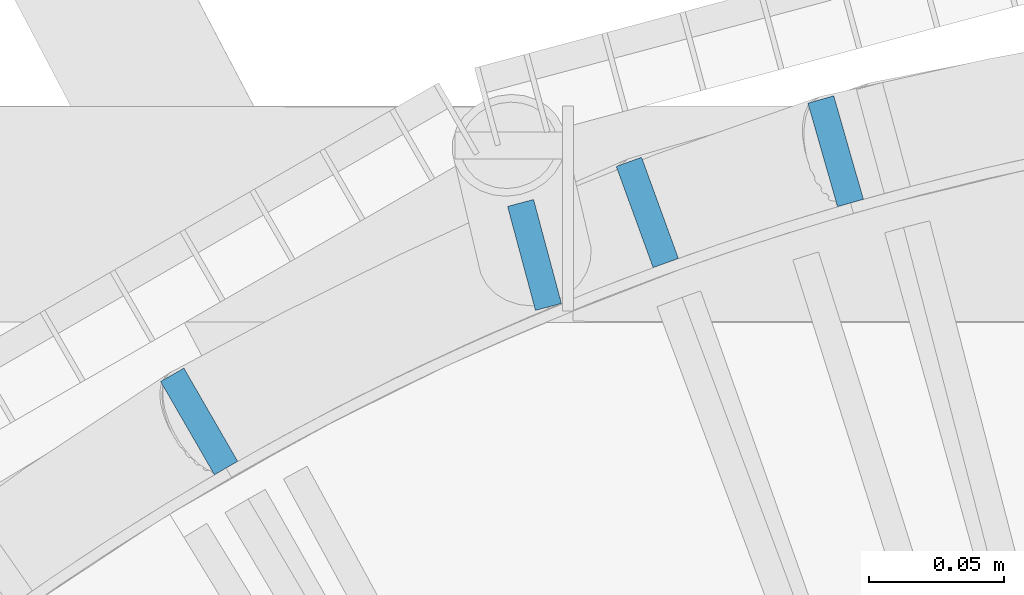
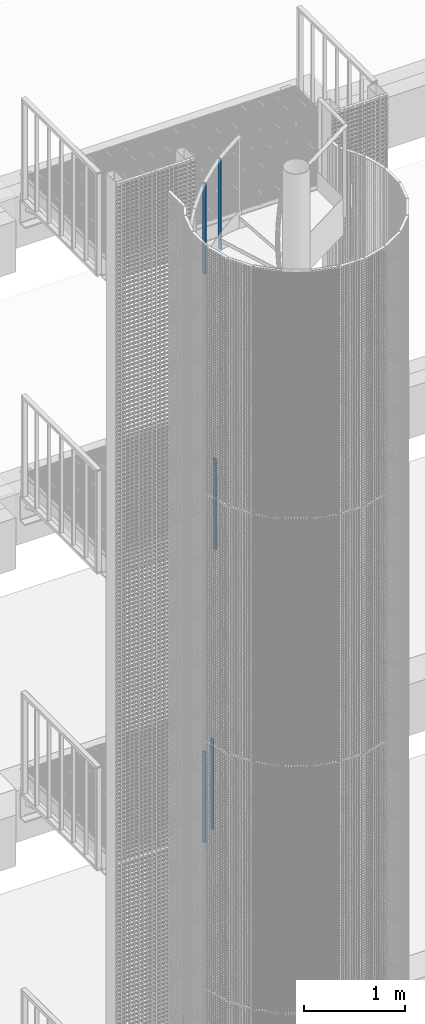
# One storey, part 60 of 1183: 5 columns, 5 elements without a shape of their own.
"""IFC2X3 building model written with IfcOpenShell, lengths in millimetres."""

from ifc_helpers import new_model, si_unit, frame, origin_with_axes, origin_2d_with_axis, place, context, subcontext, project, spatial, rectangle, extrude, material, type_object, element, aggregate, save


model = new_model("IFC2X3")

# Units and contexts
model_context = context("Model", 3, precision=1e-05, world=origin_with_axes())
body_context = subcontext(model_context, "Body", "Model", "MODEL_VIEW")
ifc_project = project(units=[si_unit("LENGTHUNIT", "METRE", prefix="MILLI"), si_unit("AREAUNIT", "SQUARE_METRE"), si_unit("VOLUMEUNIT", "CUBIC_METRE"), si_unit("MASSUNIT", "GRAM", prefix="KILO"), si_unit("TIMEUNIT", "SECOND"), si_unit("PLANEANGLEUNIT", "RADIAN"), si_unit("SOLIDANGLEUNIT", "STERADIAN"), si_unit("THERMODYNAMICTEMPERATUREUNIT", "DEGREE_CELSIUS"), si_unit("LUMINOUSINTENSITYUNIT", "LUMEN")], contexts=[model_context])

# Site, building, storey
site_placement = place(None, origin_with_axes())
site = spatial("IfcSite", under=ifc_project, at=site_placement, Name="Undefined", CompositionType="ELEMENT")
building_placement = place(site_placement, origin_with_axes())
building = spatial("IfcBuilding", under=site, at=building_placement, Name="Undefined", CompositionType="ELEMENT")
storey_placement = place(building_placement, origin_with_axes())
storey = spatial("IfcBuildingStorey", under=building, at=storey_placement, Name="Undefined", CompositionType="ELEMENT", Elevation=0.0)

# Assembly, column
assembly_1_placement = place(storey_placement, origin_with_axes())
assembly_1 = element("IfcElementAssembly", 1, at=assembly_1_placement, inside=storey, Name="MONTANT", AssemblyPlace="NOTDEFINED", PredefinedType="NOTDEFINED")
ifc_material = material(Name="STEEL/S235JR")
column_type = type_object("IfcColumnType", Name="PL10*40", PredefinedType="NOTDEFINED")
column_1_placement = place(assembly_1_placement, frame((21309.47822697, 1013.16982751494, 16976.92), z_axis=(0.0, 0.0, 1.0), x_axis=(0.275637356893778, -0.961261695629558, 0.0)))
column_1 = element("IfcColumn", 2, at=column_1_placement, type_object=column_type, material=ifc_material, Name="MONTANT", context=body_context, shape_type="SweptSolid", body=[
    extrude(rectangle(XDim=10.0, YDim=40.0, at=origin_2d_with_axis()), frame((0.0, 0.0, 1100.0), z_axis=(0.0, 0.0, -1.0), x_axis=(0.0, 1.0, 0.0)), (0.0, 0.0, 1.0), 1100.0),
])
aggregate(assembly_1, [column_1])

assembly_2_placement = place(storey_placement, origin_with_axes())
assembly_2 = element("IfcElementAssembly", 3, at=assembly_2_placement, inside=storey, Name="MONTANT", AssemblyPlace="NOTDEFINED", PredefinedType="NOTDEFINED")
column_2_placement = place(assembly_2_placement, frame((21072.9999999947, 912.790775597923, 16820.4), z_axis=(0.0, 0.0, 1.0), x_axis=(0.499999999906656, -0.866025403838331, 0.0)))
column_2 = element("IfcColumn", 4, at=column_2_placement, type_object=column_type, material=ifc_material, Name="MONTANT", context=body_context, shape_type="SweptSolid", body=[
    extrude(rectangle(XDim=10.0, YDim=40.0, at=origin_2d_with_axis()), frame((0.0, 0.0, 1100.0), z_axis=(0.0, 0.0, -1.0), x_axis=(0.0, 1.0, 0.0)), (0.0, 0.0, 1.0), 1100.0),
])
aggregate(assembly_2, [column_2])

assembly_3_placement = place(storey_placement, origin_with_axes())
assembly_3 = element("IfcElementAssembly", 5, at=assembly_3_placement, inside=storey, Name="MONTANT", AssemblyPlace="NOTDEFINED", PredefinedType="NOTDEFINED")
column_3_placement = place(assembly_3_placement, frame((21239.5107689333, 990.43602231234, 13376.92), z_axis=(0.0, 0.0, 1.0), x_axis=(0.342020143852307, -0.939692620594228, 0.0)))
column_3 = element("IfcColumn", 6, at=column_3_placement, type_object=column_type, material=ifc_material, Name="MONTANT", context=body_context, shape_type="SweptSolid", body=[
    extrude(rectangle(XDim=10.0, YDim=40.0, at=origin_2d_with_axis()), frame((0.0, 0.0, 1100.0), z_axis=(0.0, 0.0, -1.0), x_axis=(0.0, 1.0, 0.0)), (0.0, 0.0, 1.0), 1100.0),
])
aggregate(assembly_3, [column_3])

assembly_4_placement = place(storey_placement, origin_with_axes())
assembly_4 = element("IfcElementAssembly", 7, at=assembly_4_placement, inside=storey, Name="MONTANT", AssemblyPlace="NOTDEFINED", PredefinedType="NOTDEFINED")
column_4_placement = place(assembly_4_placement, frame((21197.5947264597, 974.645820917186, 10009.99), z_axis=(0.0, 0.0, 1.0), x_axis=(0.258819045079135, -0.965925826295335, 0.0)))
column_4 = element("IfcColumn", 8, at=column_4_placement, type_object=column_type, material=ifc_material, Name="MONTANT", context=body_context, shape_type="SweptSolid", body=[
    extrude(rectangle(XDim=10.0, YDim=40.0, at=origin_2d_with_axis()), frame((0.0, 0.0, 1100.0), z_axis=(0.0, 0.0, -1.0), x_axis=(0.0, 1.0, 0.0)), (0.0, 0.0, 1.0), 1100.0),
])
aggregate(assembly_4, [column_4])

assembly_5_placement = place(storey_placement, origin_with_axes())
assembly_5 = element("IfcElementAssembly", 9, at=assembly_5_placement, inside=storey, Name="MONTANT", AssemblyPlace="NOTDEFINED", PredefinedType="NOTDEFINED")
column_5_placement = place(assembly_5_placement, frame((21072.9999999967, 912.790775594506, 9933.44000000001), z_axis=(0.0, 0.0, 1.0), x_axis=(0.499999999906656, -0.866025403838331, 0.0)))
column_5 = element("IfcColumn", 10, at=column_5_placement, type_object=column_type, material=ifc_material, Name="MONTANT", context=body_context, shape_type="SweptSolid", body=[
    extrude(rectangle(XDim=10.0, YDim=40.0, at=origin_2d_with_axis()), frame((0.0, 0.0, 1100.0), z_axis=(0.0, 0.0, -1.0), x_axis=(0.0, 1.0, 0.0)), (0.0, 0.0, 1.0), 1100.0),
])
aggregate(assembly_5, [column_5])

save(model, "model.ifc")
